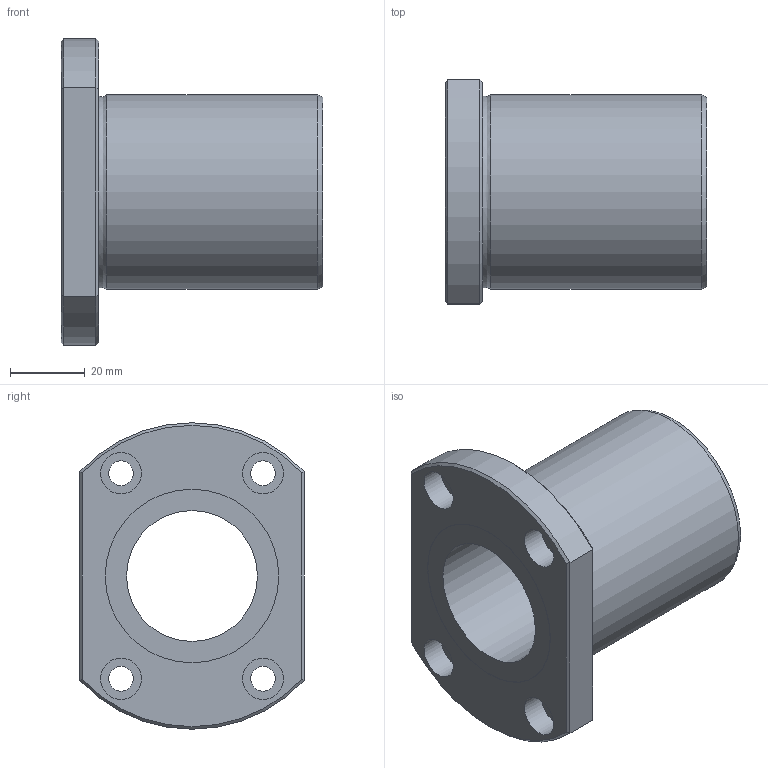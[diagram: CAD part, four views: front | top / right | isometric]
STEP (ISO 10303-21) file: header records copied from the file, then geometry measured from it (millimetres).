
FILE_DESCRIPTION((''),'2;1');
FILE_NAME('D:\製品 (図面)\カタログ用3D\リニアベアリング関連\STEP形式\LFT\LFT35B.stp','2010-06-04T09:19:28',('Tsuchiya'),(''),'Autodesk Inventor 10','Autodesk Inventor 10','');
FILE_SCHEMA(('AUTOMOTIVE_DESIGN { 1 0 10303 214 1 1 1 1 }'));
Length unit declared in the file: millimetre
Products named in the file (1): LFT35B
Bounding box: 70 x 60 x 82 mm (x, y, z)
Volume: 101010.5 mm3; surface area: 27603.2 mm2
Topology: 1 solids, 1 shells, 35 faces, 68 edges, 42 vertices
Faces by surface type: plane 15, cylinder 14, cone 4, torus 1, bspline 1
Full cylindrical faces by diameter (mm): 6.6 x4, 11 x4, 35 x1, 46.4 x2, 52 x1
Entity records: 935 total; most frequent: CARTESIAN_POINT 218, DIRECTION 150, ORIENTED_EDGE 108, AXIS2_PLACEMENT_3D 69, EDGE_LOOP 66, EDGE_CURVE 54, VERTEX_POINT 42, FACE_OUTER_BOUND 35
